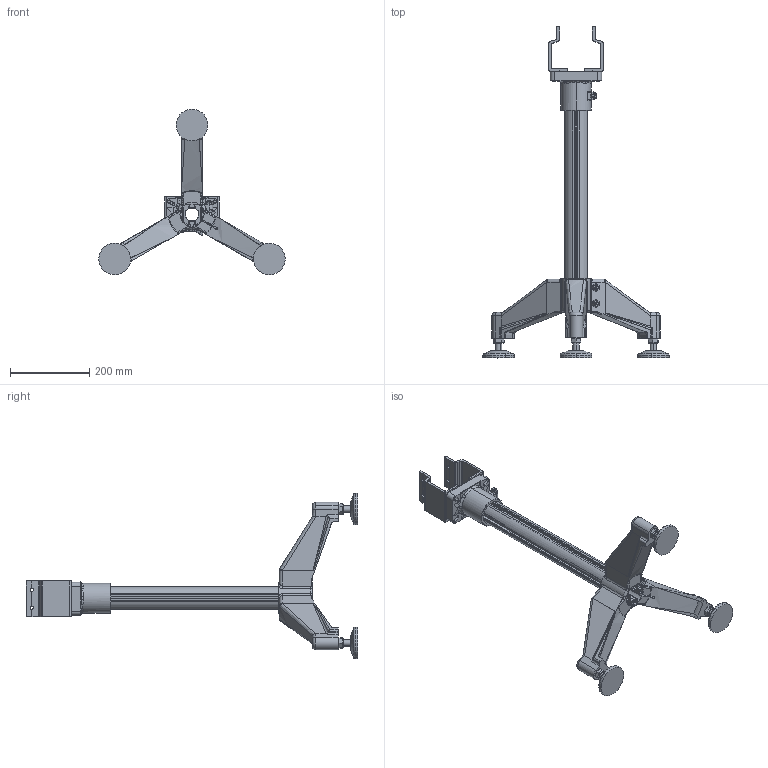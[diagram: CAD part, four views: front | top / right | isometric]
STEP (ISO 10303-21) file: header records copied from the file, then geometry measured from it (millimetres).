
FILE_DESCRIPTION (( 'STEP AP203' ), '1' );
FILE_NAME ('Tripode FM83 FAHBS-90 modif.STEP', '2007-12-20T13:09:01', ( ' ' ), ( ' ' ), 'SwSTEP 2.0', 'SolidWorks 2008', '' );
FILE_SCHEMA (( 'CONFIG_CONTROL_DESIGN' ));
Length unit declared in the file: millimetre
Products named in the file (1): Tripode FM83 FAHBS-90 modif
Bounding box: 470.29 x 838.5 x 418.11 mm (x, y, z)
Surface area: 708916.6 mm2 (no closed solid volume)
Topology: 0 solids, 8 shells, 653 faces, 1814 edges, 1146 vertices
Faces by surface type: plane 267, cylinder 256, torus 55, bspline 53, cone 16, sphere 6
Entity records: 24119 total; most frequent: CARTESIAN_POINT 8045, ORIENTED_EDGE 3443, DIRECTION 3199, EDGE_CURVE 1805, VERTEX_POINT 1146, AXIS2_PLACEMENT_3D 1114, VECTOR 971, LINE 971
